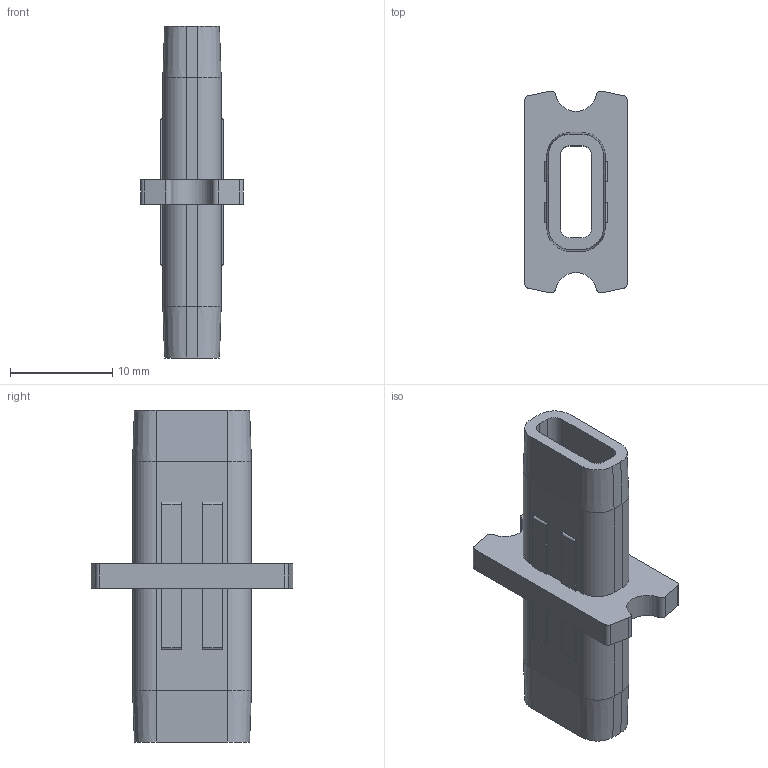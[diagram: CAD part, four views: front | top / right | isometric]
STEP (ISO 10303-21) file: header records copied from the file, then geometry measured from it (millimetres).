
FILE_DESCRIPTION (( 'STEP AP214' ), '1' );
FILE_NAME ('FGRJ 10X20.step', '2017-04-05T07:43:24', ( '' ), ( '' ), 'SwSTEP 2.0', 'SolidWorks 2015', '' );
FILE_SCHEMA (( 'AUTOMOTIVE_DESIGN' ));
Length unit declared in the file: millimetre
Products named in the file (1): FGRJ 10X20
Bounding box: 10 x 19.7 x 32.4 mm (x, y, z)
Volume: 1398.7 mm3; surface area: 2105.4 mm2
Topology: 1 solids, 1 shells, 92 faces, 248 edges, 160 vertices
Faces by surface type: plane 54, cylinder 30, cone 8
Entity records: 2910 total; most frequent: DIRECTION 502, CARTESIAN_POINT 501, ORIENTED_EDGE 496, EDGE_CURVE 248, VECTOR 180, LINE 180, AXIS2_PLACEMENT_3D 161, VERTEX_POINT 160
